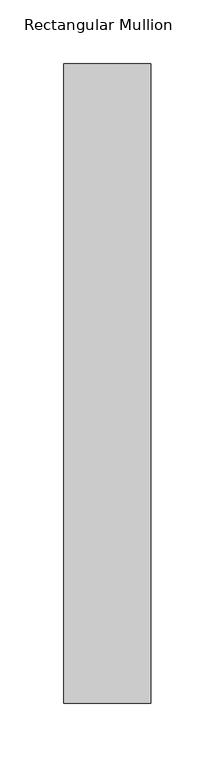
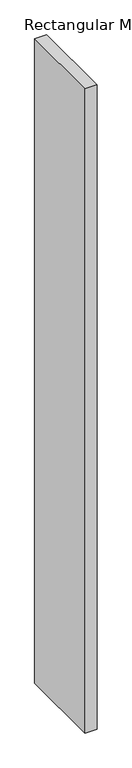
"""IFC4 building model written with IfcOpenShell, lengths in millimetres: member geometry, Rectangular Mullion : DucoSun Cubic Design louvre 500."""

from ifc_helpers import new_model, si_unit, frame, origin, place, context, project, spatial, polyline, outline, extrude, source, transform, mapped, element, save


def rectangular_mullion_9816f709(model_context):
    return source(origin(), model_context, "Body", "SweptSolid", [
        extrude(outline(polyline([(34.0, -500.0), (-34.0, -500.0), (-34.0, 0.0), (34.0, 0.0), (34.0, -500.0)])), frame((0.0, 0.0, -3900.0), z_axis=(0.0, 0.0, 1.0), x_axis=(1.0, 0.0, 0.0)), (0.0, 0.0, 1.0), 3900.0),
    ])


if __name__ == "__main__":
    model = new_model("IFC4")
    model_context = context("Model", 3, world=origin())
    ifc_project = project(units=[si_unit("LENGTHUNIT", "METRE", prefix="MILLI")], contexts=[model_context])
    site = spatial("IfcSite", under=ifc_project)
    building = spatial("IfcBuilding", under=site)
    placement = place(None, origin())
    rectangular_mullion_shape = rectangular_mullion_9816f709(model_context)
    element("IfcMember", 1, ObjectType="Rectangular Mullion : DucoSun Cubic Design louvre 500", at=placement, inside=building, context=model_context, shape_type="MappedRepresentation", body=[
        mapped(rectangular_mullion_shape, transform((0.0, 0.0, 0.0), x_axis=(1.0, 0.0, 0.0), y_axis=(0.0, 1.0, 0.0), z_axis=(0.0, 0.0, 1.0))),
    ])
    save(model, "model.ifc")
